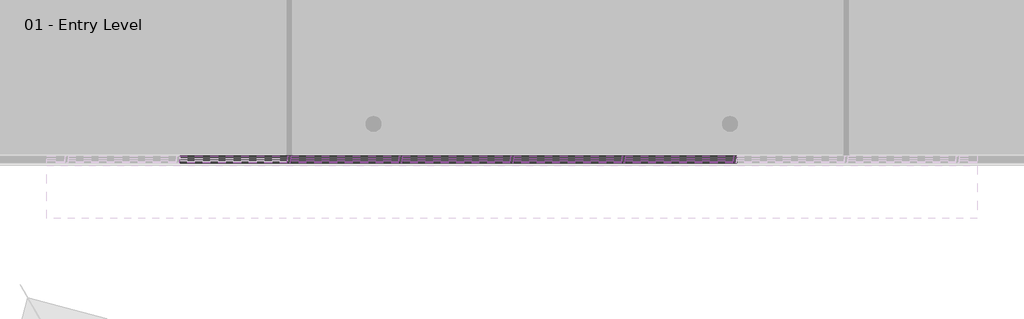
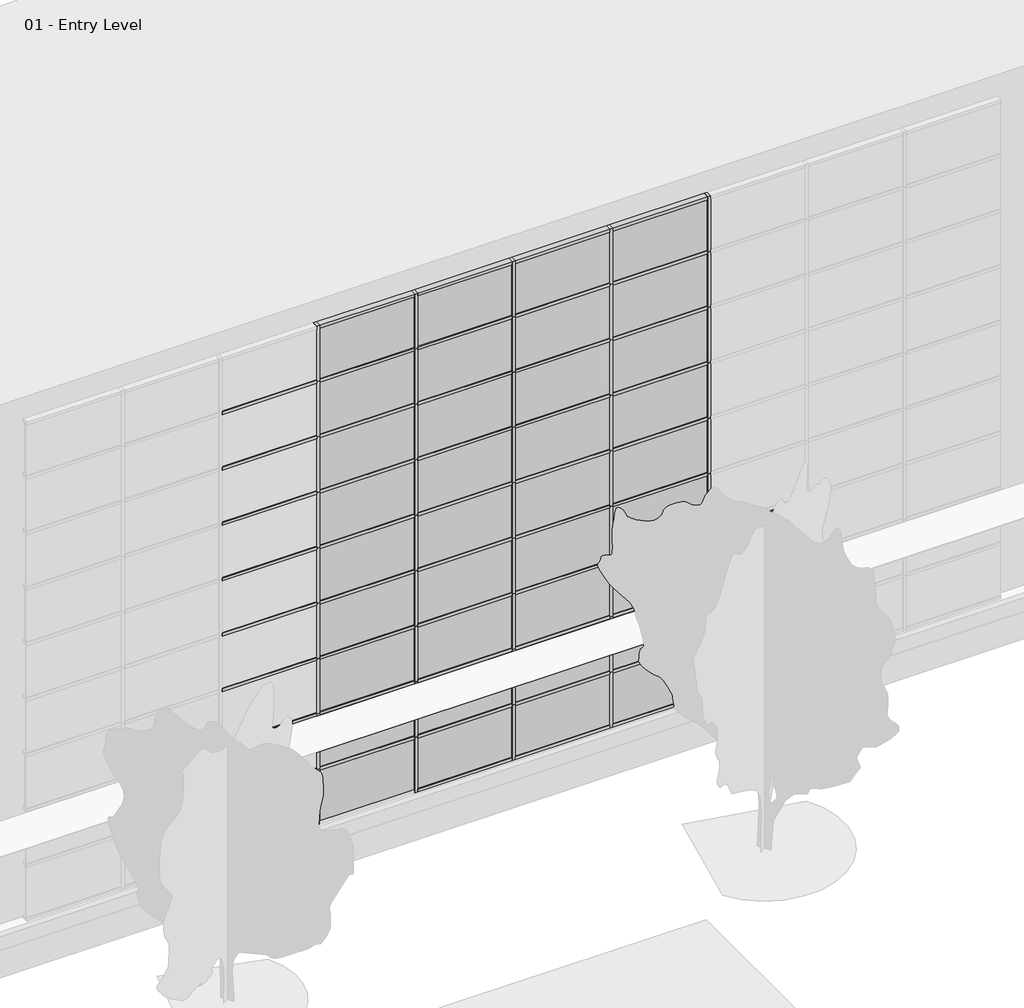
# One storey, part 4 of 35: 93 members, 39 plates.
"""IFC4 building model written with IfcOpenShell, lengths in millimetres."""

from ifc_helpers import new_model, si_unit, origin, place, context, project, spatial, transform, mapped, element, save
from components import member_2b49869a, member_391b434c, member_9e90ae50, system_panel_glazed_1b9d6098, system_panel_glazed_70da479d, system_panel_solid_b376696c, system_panel_solid_77e8b053

model = new_model("IFC4")

# Units and contexts
model_context = context("Model", 3, world=origin())
ifc_project = project(units=[si_unit("LENGTHUNIT", "METRE", prefix="MILLI")], contexts=[model_context])

# Site, building, storey
site = spatial("IfcSite", under=ifc_project)
building = spatial("IfcBuilding", under=site)
storey = spatial("IfcBuildingStorey", under=building, Name="01 - Entry Level", Elevation=0.0)

# Members
placement = place(None, origin())
member_shape = member_2b49869a(model_context)
element("IfcMember", 1, ObjectType="Rectangular Mullion : 2.5\" x 5\" rectangular", at=placement, inside=storey, context=model_context, shape_type="MappedRepresentation", body=[
    mapped(member_shape, transform((40755.2207476, -47.7, 9753.6), x_axis=(1.0, 0.0, 0.0), y_axis=(0.0, -1.0, 0.0), z_axis=(0.0, 0.0, -1.0))),
])
element("IfcMember", 2, ObjectType="Rectangular Mullion : 2.5\" x 5\" rectangular", at=placement, inside=storey, context=model_context, shape_type="MappedRepresentation", body=[
    mapped(member_shape, transform((42787.2207476, -47.7, 9753.6), x_axis=(1.0, 0.0, 0.0), y_axis=(0.0, -1.0, 0.0), z_axis=(0.0, 0.0, -1.0))),
])
element("IfcMember", 3, ObjectType="Rectangular Mullion : 2.5\" x 5\" rectangular", at=placement, inside=storey, context=model_context, shape_type="MappedRepresentation", body=[
    mapped(member_shape, transform((44819.2207476, -47.7, 9753.6), x_axis=(1.0, 0.0, 0.0), y_axis=(0.0, -1.0, 0.0), z_axis=(0.0, 0.0, -1.0))),
])
element("IfcMember", 4, ObjectType="Rectangular Mullion : 2.5\" x 5\" rectangular", at=placement, inside=storey, context=model_context, shape_type="MappedRepresentation", body=[
    mapped(member_shape, transform((46851.2207476, -47.7, 9753.6), x_axis=(1.0, 0.0, 0.0), y_axis=(0.0, -1.0, 0.0), z_axis=(0.0, 0.0, -1.0))),
])
element("IfcMember", 5, ObjectType="Rectangular Mullion : 2.5\" x 5\" rectangular", at=placement, inside=storey, context=model_context, shape_type="MappedRepresentation", body=[
    mapped(member_shape, transform((48883.2207476, -47.7, 9753.6), x_axis=(1.0, 0.0, 0.0), y_axis=(0.0, -1.0, 0.0), z_axis=(0.0, 0.0, -1.0))),
])
member_2_shape = member_391b434c(model_context)
element("IfcMember", 6, ObjectType="Rectangular Mullion : 2.5\" x 5\" rectangular", at=placement, inside=storey, context=model_context, shape_type="MappedRepresentation", body=[
    mapped(member_2_shape, transform((42755.4707476, -47.7, 10972.8), x_axis=(0.0, 0.0, 1.0), y_axis=(0.0, -1.0, 0.0), z_axis=(1.0, 0.0, 0.0))),
])
element("IfcMember", 7, ObjectType="Rectangular Mullion : 2.5\" x 5\" rectangular", at=placement, inside=storey, context=model_context, shape_type="MappedRepresentation", body=[
    mapped(member_2_shape, transform((44787.4707476, -47.7, 10972.8), x_axis=(0.0, 0.0, 1.0), y_axis=(0.0, -1.0, 0.0), z_axis=(1.0, 0.0, 0.0))),
])
element("IfcMember", 8, ObjectType="Rectangular Mullion : 2.5\" x 5\" rectangular", at=placement, inside=storey, context=model_context, shape_type="MappedRepresentation", body=[
    mapped(member_2_shape, transform((46819.4707476, -47.7, 10972.8), x_axis=(0.0, 0.0, 1.0), y_axis=(0.0, -1.0, 0.0), z_axis=(1.0, 0.0, 0.0))),
])
element("IfcMember", 9, ObjectType="Rectangular Mullion : 2.5\" x 5\" rectangular", at=placement, inside=storey, context=model_context, shape_type="MappedRepresentation", body=[
    mapped(member_2_shape, transform((48851.4707476, -47.7, 10972.8), x_axis=(0.0, 0.0, 1.0), y_axis=(0.0, -1.0, 0.0), z_axis=(1.0, 0.0, 0.0))),
])
element("IfcMember", 10, ObjectType="Rectangular Mullion : 2.5\" x 5\" rectangular", at=placement, inside=storey, context=model_context, shape_type="MappedRepresentation", body=[
    mapped(member_2_shape, transform((42818.9707476, -47.7, 0.0), x_axis=(0.0, 0.0, -1.0), y_axis=(0.0, -1.0, 0.0), z_axis=(-1.0, 0.0, 0.0))),
])
element("IfcMember", 11, ObjectType="Rectangular Mullion : 2.5\" x 5\" rectangular", at=placement, inside=storey, context=model_context, shape_type="MappedRepresentation", body=[
    mapped(member_2_shape, transform((44850.9707476, -47.7, 0.0), x_axis=(0.0, 0.0, -1.0), y_axis=(0.0, -1.0, 0.0), z_axis=(-1.0, 0.0, 0.0))),
])
element("IfcMember", 12, ObjectType="Rectangular Mullion : 2.5\" x 5\" rectangular", at=placement, inside=storey, context=model_context, shape_type="MappedRepresentation", body=[
    mapped(member_2_shape, transform((46882.9707476, -47.7, 0.0), x_axis=(0.0, 0.0, -1.0), y_axis=(0.0, -1.0, 0.0), z_axis=(-1.0, 0.0, 0.0))),
])
element("IfcMember", 13, ObjectType="Rectangular Mullion : 2.5\" x 5\" rectangular", at=placement, inside=storey, context=model_context, shape_type="MappedRepresentation", body=[
    mapped(member_2_shape, transform((48914.9707476, -47.7, 0.0), x_axis=(0.0, 0.0, -1.0), y_axis=(0.0, -1.0, 0.0), z_axis=(-1.0, 0.0, 0.0))),
])
member_3_shape = member_9e90ae50(model_context)
element("IfcMember", 14, ObjectType="Rectangular Mullion : 2.5\" x 5\" rectangular", at=placement, inside=storey, context=model_context, shape_type="MappedRepresentation", body=[
    mapped(member_3_shape, transform((40723.4707476, -47.7, 1219.2), x_axis=(0.0, 0.0, 1.0), y_axis=(0.0, -1.0, 0.0), z_axis=(1.0, 0.0, 0.0))),
])
element("IfcMember", 15, ObjectType="Rectangular Mullion : 2.5\" x 5\" rectangular", at=placement, inside=storey, context=model_context, shape_type="MappedRepresentation", body=[
    mapped(member_3_shape, transform((42755.4707476, -47.7, 1219.2), x_axis=(0.0, 0.0, 1.0), y_axis=(0.0, -1.0, 0.0), z_axis=(1.0, 0.0, 0.0))),
])
element("IfcMember", 16, ObjectType="Rectangular Mullion : 2.5\" x 5\" rectangular", at=placement, inside=storey, context=model_context, shape_type="MappedRepresentation", body=[
    mapped(member_3_shape, transform((44787.4707476, -47.7, 1219.2), x_axis=(0.0, 0.0, 1.0), y_axis=(0.0, -1.0, 0.0), z_axis=(1.0, 0.0, 0.0))),
])
element("IfcMember", 17, ObjectType="Rectangular Mullion : 2.5\" x 5\" rectangular", at=placement, inside=storey, context=model_context, shape_type="MappedRepresentation", body=[
    mapped(member_3_shape, transform((46819.4707476, -47.7, 1219.2), x_axis=(0.0, 0.0, 1.0), y_axis=(0.0, -1.0, 0.0), z_axis=(1.0, 0.0, 0.0))),
])
element("IfcMember", 18, ObjectType="Rectangular Mullion : 2.5\" x 5\" rectangular", at=placement, inside=storey, context=model_context, shape_type="MappedRepresentation", body=[
    mapped(member_3_shape, transform((48851.4707476, -47.7, 1219.2), x_axis=(0.0, 0.0, 1.0), y_axis=(0.0, -1.0, 0.0), z_axis=(1.0, 0.0, 0.0))),
])
element("IfcMember", 19, ObjectType="Rectangular Mullion : 2.5\" x 5\" rectangular", at=placement, inside=storey, context=model_context, shape_type="MappedRepresentation", body=[
    mapped(member_3_shape, transform((40723.4707476, -47.7, 2438.4), x_axis=(0.0, 0.0, 1.0), y_axis=(0.0, -1.0, 0.0), z_axis=(1.0, 0.0, 0.0))),
])
element("IfcMember", 20, ObjectType="Rectangular Mullion : 2.5\" x 5\" rectangular", at=placement, inside=storey, context=model_context, shape_type="MappedRepresentation", body=[
    mapped(member_3_shape, transform((42755.4707476, -47.7, 2438.4), x_axis=(0.0, 0.0, 1.0), y_axis=(0.0, -1.0, 0.0), z_axis=(1.0, 0.0, 0.0))),
])
element("IfcMember", 21, ObjectType="Rectangular Mullion : 2.5\" x 5\" rectangular", at=placement, inside=storey, context=model_context, shape_type="MappedRepresentation", body=[
    mapped(member_3_shape, transform((44787.4707476, -47.7, 2438.4), x_axis=(0.0, 0.0, 1.0), y_axis=(0.0, -1.0, 0.0), z_axis=(1.0, 0.0, 0.0))),
])
element("IfcMember", 22, ObjectType="Rectangular Mullion : 2.5\" x 5\" rectangular", at=placement, inside=storey, context=model_context, shape_type="MappedRepresentation", body=[
    mapped(member_3_shape, transform((46819.4707476, -47.7, 2438.4), x_axis=(0.0, 0.0, 1.0), y_axis=(0.0, -1.0, 0.0), z_axis=(1.0, 0.0, 0.0))),
])
element("IfcMember", 23, ObjectType="Rectangular Mullion : 2.5\" x 5\" rectangular", at=placement, inside=storey, context=model_context, shape_type="MappedRepresentation", body=[
    mapped(member_3_shape, transform((48851.4707476, -47.7, 2438.4), x_axis=(0.0, 0.0, 1.0), y_axis=(0.0, -1.0, 0.0), z_axis=(1.0, 0.0, 0.0))),
])
element("IfcMember", 24, ObjectType="Rectangular Mullion : 2.5\" x 5\" rectangular", at=placement, inside=storey, context=model_context, shape_type="MappedRepresentation", body=[
    mapped(member_3_shape, transform((40723.4707476, -47.7, 3657.6), x_axis=(0.0, 0.0, 1.0), y_axis=(0.0, -1.0, 0.0), z_axis=(1.0, 0.0, 0.0))),
])
element("IfcMember", 25, ObjectType="Rectangular Mullion : 2.5\" x 5\" rectangular", at=placement, inside=storey, context=model_context, shape_type="MappedRepresentation", body=[
    mapped(member_3_shape, transform((42755.4707476, -47.7, 3657.6), x_axis=(0.0, 0.0, 1.0), y_axis=(0.0, -1.0, 0.0), z_axis=(1.0, 0.0, 0.0))),
])
element("IfcMember", 26, ObjectType="Rectangular Mullion : 2.5\" x 5\" rectangular", at=placement, inside=storey, context=model_context, shape_type="MappedRepresentation", body=[
    mapped(member_3_shape, transform((44787.4707476, -47.7, 3657.6), x_axis=(0.0, 0.0, 1.0), y_axis=(0.0, -1.0, 0.0), z_axis=(1.0, 0.0, 0.0))),
])
element("IfcMember", 27, ObjectType="Rectangular Mullion : 2.5\" x 5\" rectangular", at=placement, inside=storey, context=model_context, shape_type="MappedRepresentation", body=[
    mapped(member_3_shape, transform((46819.4707476, -47.7, 3657.6), x_axis=(0.0, 0.0, 1.0), y_axis=(0.0, -1.0, 0.0), z_axis=(1.0, 0.0, 0.0))),
])
element("IfcMember", 28, ObjectType="Rectangular Mullion : 2.5\" x 5\" rectangular", at=placement, inside=storey, context=model_context, shape_type="MappedRepresentation", body=[
    mapped(member_3_shape, transform((48851.4707476, -47.7, 3657.6), x_axis=(0.0, 0.0, 1.0), y_axis=(0.0, -1.0, 0.0), z_axis=(1.0, 0.0, 0.0))),
])
element("IfcMember", 29, ObjectType="Rectangular Mullion : 2.5\" x 5\" rectangular", at=placement, inside=storey, context=model_context, shape_type="MappedRepresentation", body=[
    mapped(member_3_shape, transform((40723.4707476, -47.7, 4876.8), x_axis=(0.0, 0.0, 1.0), y_axis=(0.0, -1.0, 0.0), z_axis=(1.0, 0.0, 0.0))),
])
element("IfcMember", 30, ObjectType="Rectangular Mullion : 2.5\" x 5\" rectangular", at=placement, inside=storey, context=model_context, shape_type="MappedRepresentation", body=[
    mapped(member_3_shape, transform((42755.4707476, -47.7, 4876.8), x_axis=(0.0, 0.0, 1.0), y_axis=(0.0, -1.0, 0.0), z_axis=(1.0, 0.0, 0.0))),
])
element("IfcMember", 31, ObjectType="Rectangular Mullion : 2.5\" x 5\" rectangular", at=placement, inside=storey, context=model_context, shape_type="MappedRepresentation", body=[
    mapped(member_3_shape, transform((44787.4707476, -47.7, 4876.8), x_axis=(0.0, 0.0, 1.0), y_axis=(0.0, -1.0, 0.0), z_axis=(1.0, 0.0, 0.0))),
])
element("IfcMember", 32, ObjectType="Rectangular Mullion : 2.5\" x 5\" rectangular", at=placement, inside=storey, context=model_context, shape_type="MappedRepresentation", body=[
    mapped(member_3_shape, transform((46819.4707476, -47.7, 4876.8), x_axis=(0.0, 0.0, 1.0), y_axis=(0.0, -1.0, 0.0), z_axis=(1.0, 0.0, 0.0))),
])
element("IfcMember", 33, ObjectType="Rectangular Mullion : 2.5\" x 5\" rectangular", at=placement, inside=storey, context=model_context, shape_type="MappedRepresentation", body=[
    mapped(member_3_shape, transform((48851.4707476, -47.7, 4876.8), x_axis=(0.0, 0.0, 1.0), y_axis=(0.0, -1.0, 0.0), z_axis=(1.0, 0.0, 0.0))),
])
element("IfcMember", 34, ObjectType="Rectangular Mullion : 2.5\" x 5\" rectangular", at=placement, inside=storey, context=model_context, shape_type="MappedRepresentation", body=[
    mapped(member_3_shape, transform((40723.4707476, -47.7, 6096.0), x_axis=(0.0, 0.0, 1.0), y_axis=(0.0, -1.0, 0.0), z_axis=(1.0, 0.0, 0.0))),
])
element("IfcMember", 35, ObjectType="Rectangular Mullion : 2.5\" x 5\" rectangular", at=placement, inside=storey, context=model_context, shape_type="MappedRepresentation", body=[
    mapped(member_3_shape, transform((42755.4707476, -47.7, 6096.0), x_axis=(0.0, 0.0, 1.0), y_axis=(0.0, -1.0, 0.0), z_axis=(1.0, 0.0, 0.0))),
])
element("IfcMember", 36, ObjectType="Rectangular Mullion : 2.5\" x 5\" rectangular", at=placement, inside=storey, context=model_context, shape_type="MappedRepresentation", body=[
    mapped(member_3_shape, transform((44787.4707476, -47.7, 6096.0), x_axis=(0.0, 0.0, 1.0), y_axis=(0.0, -1.0, 0.0), z_axis=(1.0, 0.0, 0.0))),
])
element("IfcMember", 37, ObjectType="Rectangular Mullion : 2.5\" x 5\" rectangular", at=placement, inside=storey, context=model_context, shape_type="MappedRepresentation", body=[
    mapped(member_3_shape, transform((46819.4707476, -47.7, 6096.0), x_axis=(0.0, 0.0, 1.0), y_axis=(0.0, -1.0, 0.0), z_axis=(1.0, 0.0, 0.0))),
])
element("IfcMember", 38, ObjectType="Rectangular Mullion : 2.5\" x 5\" rectangular", at=placement, inside=storey, context=model_context, shape_type="MappedRepresentation", body=[
    mapped(member_3_shape, transform((48851.4707476, -47.7, 6096.0), x_axis=(0.0, 0.0, 1.0), y_axis=(0.0, -1.0, 0.0), z_axis=(1.0, 0.0, 0.0))),
])
element("IfcMember", 39, ObjectType="Rectangular Mullion : 2.5\" x 5\" rectangular", at=placement, inside=storey, context=model_context, shape_type="MappedRepresentation", body=[
    mapped(member_3_shape, transform((40723.4707476, -47.7, 7315.2), x_axis=(0.0, 0.0, 1.0), y_axis=(0.0, -1.0, 0.0), z_axis=(1.0, 0.0, 0.0))),
])
element("IfcMember", 40, ObjectType="Rectangular Mullion : 2.5\" x 5\" rectangular", at=placement, inside=storey, context=model_context, shape_type="MappedRepresentation", body=[
    mapped(member_3_shape, transform((42755.4707476, -47.7, 7315.2), x_axis=(0.0, 0.0, 1.0), y_axis=(0.0, -1.0, 0.0), z_axis=(1.0, 0.0, 0.0))),
])
element("IfcMember", 41, ObjectType="Rectangular Mullion : 2.5\" x 5\" rectangular", at=placement, inside=storey, context=model_context, shape_type="MappedRepresentation", body=[
    mapped(member_3_shape, transform((44787.4707476, -47.7, 7315.2), x_axis=(0.0, 0.0, 1.0), y_axis=(0.0, -1.0, 0.0), z_axis=(1.0, 0.0, 0.0))),
])
element("IfcMember", 42, ObjectType="Rectangular Mullion : 2.5\" x 5\" rectangular", at=placement, inside=storey, context=model_context, shape_type="MappedRepresentation", body=[
    mapped(member_3_shape, transform((46819.4707476, -47.7, 7315.2), x_axis=(0.0, 0.0, 1.0), y_axis=(0.0, -1.0, 0.0), z_axis=(1.0, 0.0, 0.0))),
])
element("IfcMember", 43, ObjectType="Rectangular Mullion : 2.5\" x 5\" rectangular", at=placement, inside=storey, context=model_context, shape_type="MappedRepresentation", body=[
    mapped(member_3_shape, transform((48851.4707476, -47.7, 7315.2), x_axis=(0.0, 0.0, 1.0), y_axis=(0.0, -1.0, 0.0), z_axis=(1.0, 0.0, 0.0))),
])
element("IfcMember", 44, ObjectType="Rectangular Mullion : 2.5\" x 5\" rectangular", at=placement, inside=storey, context=model_context, shape_type="MappedRepresentation", body=[
    mapped(member_3_shape, transform((40723.4707476, -47.7, 8534.4), x_axis=(0.0, 0.0, 1.0), y_axis=(0.0, -1.0, 0.0), z_axis=(1.0, 0.0, 0.0))),
])
element("IfcMember", 45, ObjectType="Rectangular Mullion : 2.5\" x 5\" rectangular", at=placement, inside=storey, context=model_context, shape_type="MappedRepresentation", body=[
    mapped(member_3_shape, transform((42755.4707476, -47.7, 8534.4), x_axis=(0.0, 0.0, 1.0), y_axis=(0.0, -1.0, 0.0), z_axis=(1.0, 0.0, 0.0))),
])
element("IfcMember", 46, ObjectType="Rectangular Mullion : 2.5\" x 5\" rectangular", at=placement, inside=storey, context=model_context, shape_type="MappedRepresentation", body=[
    mapped(member_3_shape, transform((44787.4707476, -47.7, 8534.4), x_axis=(0.0, 0.0, 1.0), y_axis=(0.0, -1.0, 0.0), z_axis=(1.0, 0.0, 0.0))),
])
element("IfcMember", 47, ObjectType="Rectangular Mullion : 2.5\" x 5\" rectangular", at=placement, inside=storey, context=model_context, shape_type="MappedRepresentation", body=[
    mapped(member_3_shape, transform((46819.4707476, -47.7, 8534.4), x_axis=(0.0, 0.0, 1.0), y_axis=(0.0, -1.0, 0.0), z_axis=(1.0, 0.0, 0.0))),
])
element("IfcMember", 48, ObjectType="Rectangular Mullion : 2.5\" x 5\" rectangular", at=placement, inside=storey, context=model_context, shape_type="MappedRepresentation", body=[
    mapped(member_3_shape, transform((48851.4707476, -47.7, 8534.4), x_axis=(0.0, 0.0, 1.0), y_axis=(0.0, -1.0, 0.0), z_axis=(1.0, 0.0, 0.0))),
])
element("IfcMember", 49, ObjectType="Rectangular Mullion : 2.5\" x 5\" rectangular", at=placement, inside=storey, context=model_context, shape_type="MappedRepresentation", body=[
    mapped(member_3_shape, transform((40723.4707476, -47.7, 9753.6), x_axis=(0.0, 0.0, 1.0), y_axis=(0.0, -1.0, 0.0), z_axis=(1.0, 0.0, 0.0))),
])
element("IfcMember", 50, ObjectType="Rectangular Mullion : 2.5\" x 5\" rectangular", at=placement, inside=storey, context=model_context, shape_type="MappedRepresentation", body=[
    mapped(member_3_shape, transform((42755.4707476, -47.7, 9753.6), x_axis=(0.0, 0.0, 1.0), y_axis=(0.0, -1.0, 0.0), z_axis=(1.0, 0.0, 0.0))),
])
element("IfcMember", 51, ObjectType="Rectangular Mullion : 2.5\" x 5\" rectangular", at=placement, inside=storey, context=model_context, shape_type="MappedRepresentation", body=[
    mapped(member_3_shape, transform((44787.4707476, -47.7, 9753.6), x_axis=(0.0, 0.0, 1.0), y_axis=(0.0, -1.0, 0.0), z_axis=(1.0, 0.0, 0.0))),
])
element("IfcMember", 52, ObjectType="Rectangular Mullion : 2.5\" x 5\" rectangular", at=placement, inside=storey, context=model_context, shape_type="MappedRepresentation", body=[
    mapped(member_3_shape, transform((46819.4707476, -47.7, 9753.6), x_axis=(0.0, 0.0, 1.0), y_axis=(0.0, -1.0, 0.0), z_axis=(1.0, 0.0, 0.0))),
])
element("IfcMember", 53, ObjectType="Rectangular Mullion : 2.5\" x 5\" rectangular", at=placement, inside=storey, context=model_context, shape_type="MappedRepresentation", body=[
    mapped(member_3_shape, transform((48851.4707476, -47.7, 9753.6), x_axis=(0.0, 0.0, 1.0), y_axis=(0.0, -1.0, 0.0), z_axis=(1.0, 0.0, 0.0))),
])
element("IfcMember", 54, ObjectType="Rectangular Mullion : 2.5\" x 5\" rectangular", at=placement, inside=storey, context=model_context, shape_type="MappedRepresentation", body=[
    mapped(member_shape, transform((40755.2207476, -47.7, 0.0), x_axis=(1.0, 0.0, 0.0), y_axis=(0.0, -1.0, 0.0), z_axis=(0.0, 0.0, -1.0))),
])
element("IfcMember", 55, ObjectType="Rectangular Mullion : 2.5\" x 5\" rectangular", at=placement, inside=storey, context=model_context, shape_type="MappedRepresentation", body=[
    mapped(member_shape, transform((42787.2207476, -47.7, 0.0), x_axis=(1.0, 0.0, 0.0), y_axis=(0.0, -1.0, 0.0), z_axis=(0.0, 0.0, -1.0))),
])
element("IfcMember", 56, ObjectType="Rectangular Mullion : 2.5\" x 5\" rectangular", at=placement, inside=storey, context=model_context, shape_type="MappedRepresentation", body=[
    mapped(member_shape, transform((44819.2207476, -47.7, 0.0), x_axis=(1.0, 0.0, 0.0), y_axis=(0.0, -1.0, 0.0), z_axis=(0.0, 0.0, -1.0))),
])
element("IfcMember", 57, ObjectType="Rectangular Mullion : 2.5\" x 5\" rectangular", at=placement, inside=storey, context=model_context, shape_type="MappedRepresentation", body=[
    mapped(member_shape, transform((46851.2207476, -47.7, 0.0), x_axis=(1.0, 0.0, 0.0), y_axis=(0.0, -1.0, 0.0), z_axis=(0.0, 0.0, -1.0))),
])
element("IfcMember", 58, ObjectType="Rectangular Mullion : 2.5\" x 5\" rectangular", at=placement, inside=storey, context=model_context, shape_type="MappedRepresentation", body=[
    mapped(member_shape, transform((48883.2207476, -47.7, 0.0), x_axis=(1.0, 0.0, 0.0), y_axis=(0.0, -1.0, 0.0), z_axis=(0.0, 0.0, -1.0))),
])
element("IfcMember", 59, ObjectType="Rectangular Mullion : 2.5\" x 5\" rectangular", at=placement, inside=storey, context=model_context, shape_type="MappedRepresentation", body=[
    mapped(member_shape, transform((40755.2207476, -47.7, 1219.2), x_axis=(1.0, 0.0, 0.0), y_axis=(0.0, -1.0, 0.0), z_axis=(0.0, 0.0, -1.0))),
])
element("IfcMember", 60, ObjectType="Rectangular Mullion : 2.5\" x 5\" rectangular", at=placement, inside=storey, context=model_context, shape_type="MappedRepresentation", body=[
    mapped(member_shape, transform((42787.2207476, -47.7, 1219.2), x_axis=(1.0, 0.0, 0.0), y_axis=(0.0, -1.0, 0.0), z_axis=(0.0, 0.0, -1.0))),
])
element("IfcMember", 61, ObjectType="Rectangular Mullion : 2.5\" x 5\" rectangular", at=placement, inside=storey, context=model_context, shape_type="MappedRepresentation", body=[
    mapped(member_shape, transform((44819.2207476, -47.7, 1219.2), x_axis=(1.0, 0.0, 0.0), y_axis=(0.0, -1.0, 0.0), z_axis=(0.0, 0.0, -1.0))),
])
element("IfcMember", 62, ObjectType="Rectangular Mullion : 2.5\" x 5\" rectangular", at=placement, inside=storey, context=model_context, shape_type="MappedRepresentation", body=[
    mapped(member_shape, transform((46851.2207476, -47.7, 1219.2), x_axis=(1.0, 0.0, 0.0), y_axis=(0.0, -1.0, 0.0), z_axis=(0.0, 0.0, -1.0))),
])
element("IfcMember", 63, ObjectType="Rectangular Mullion : 2.5\" x 5\" rectangular", at=placement, inside=storey, context=model_context, shape_type="MappedRepresentation", body=[
    mapped(member_shape, transform((48883.2207476, -47.7, 1219.2), x_axis=(1.0, 0.0, 0.0), y_axis=(0.0, -1.0, 0.0), z_axis=(0.0, 0.0, -1.0))),
])
element("IfcMember", 64, ObjectType="Rectangular Mullion : 2.5\" x 5\" rectangular", at=placement, inside=storey, context=model_context, shape_type="MappedRepresentation", body=[
    mapped(member_shape, transform((40755.2207476, -47.7, 2438.4), x_axis=(1.0, 0.0, 0.0), y_axis=(0.0, -1.0, 0.0), z_axis=(0.0, 0.0, -1.0))),
])
element("IfcMember", 65, ObjectType="Rectangular Mullion : 2.5\" x 5\" rectangular", at=placement, inside=storey, context=model_context, shape_type="MappedRepresentation", body=[
    mapped(member_shape, transform((42787.2207476, -47.7, 2438.4), x_axis=(1.0, 0.0, 0.0), y_axis=(0.0, -1.0, 0.0), z_axis=(0.0, 0.0, -1.0))),
])
element("IfcMember", 66, ObjectType="Rectangular Mullion : 2.5\" x 5\" rectangular", at=placement, inside=storey, context=model_context, shape_type="MappedRepresentation", body=[
    mapped(member_shape, transform((44819.2207476, -47.7, 2438.4), x_axis=(1.0, 0.0, 0.0), y_axis=(0.0, -1.0, 0.0), z_axis=(0.0, 0.0, -1.0))),
])
element("IfcMember", 67, ObjectType="Rectangular Mullion : 2.5\" x 5\" rectangular", at=placement, inside=storey, context=model_context, shape_type="MappedRepresentation", body=[
    mapped(member_shape, transform((46851.2207476, -47.7, 2438.4), x_axis=(1.0, 0.0, 0.0), y_axis=(0.0, -1.0, 0.0), z_axis=(0.0, 0.0, -1.0))),
])
element("IfcMember", 68, ObjectType="Rectangular Mullion : 2.5\" x 5\" rectangular", at=placement, inside=storey, context=model_context, shape_type="MappedRepresentation", body=[
    mapped(member_shape, transform((48883.2207476, -47.7, 2438.4), x_axis=(1.0, 0.0, 0.0), y_axis=(0.0, -1.0, 0.0), z_axis=(0.0, 0.0, -1.0))),
])
element("IfcMember", 69, ObjectType="Rectangular Mullion : 2.5\" x 5\" rectangular", at=placement, inside=storey, context=model_context, shape_type="MappedRepresentation", body=[
    mapped(member_shape, transform((40755.2207476, -47.7, 3657.6), x_axis=(1.0, 0.0, 0.0), y_axis=(0.0, -1.0, 0.0), z_axis=(0.0, 0.0, -1.0))),
])
element("IfcMember", 70, ObjectType="Rectangular Mullion : 2.5\" x 5\" rectangular", at=placement, inside=storey, context=model_context, shape_type="MappedRepresentation", body=[
    mapped(member_shape, transform((42787.2207476, -47.7, 3657.6), x_axis=(1.0, 0.0, 0.0), y_axis=(0.0, -1.0, 0.0), z_axis=(0.0, 0.0, -1.0))),
])
element("IfcMember", 71, ObjectType="Rectangular Mullion : 2.5\" x 5\" rectangular", at=placement, inside=storey, context=model_context, shape_type="MappedRepresentation", body=[
    mapped(member_shape, transform((44819.2207476, -47.7, 3657.6), x_axis=(1.0, 0.0, 0.0), y_axis=(0.0, -1.0, 0.0), z_axis=(0.0, 0.0, -1.0))),
])
element("IfcMember", 72, ObjectType="Rectangular Mullion : 2.5\" x 5\" rectangular", at=placement, inside=storey, context=model_context, shape_type="MappedRepresentation", body=[
    mapped(member_shape, transform((46851.2207476, -47.7, 3657.6), x_axis=(1.0, 0.0, 0.0), y_axis=(0.0, -1.0, 0.0), z_axis=(0.0, 0.0, -1.0))),
])
element("IfcMember", 73, ObjectType="Rectangular Mullion : 2.5\" x 5\" rectangular", at=placement, inside=storey, context=model_context, shape_type="MappedRepresentation", body=[
    mapped(member_shape, transform((48883.2207476, -47.7, 3657.6), x_axis=(1.0, 0.0, 0.0), y_axis=(0.0, -1.0, 0.0), z_axis=(0.0, 0.0, -1.0))),
])
element("IfcMember", 74, ObjectType="Rectangular Mullion : 2.5\" x 5\" rectangular", at=placement, inside=storey, context=model_context, shape_type="MappedRepresentation", body=[
    mapped(member_shape, transform((40755.2207476, -47.7, 4876.8), x_axis=(1.0, 0.0, 0.0), y_axis=(0.0, -1.0, 0.0), z_axis=(0.0, 0.0, -1.0))),
])
element("IfcMember", 75, ObjectType="Rectangular Mullion : 2.5\" x 5\" rectangular", at=placement, inside=storey, context=model_context, shape_type="MappedRepresentation", body=[
    mapped(member_shape, transform((42787.2207476, -47.7, 4876.8), x_axis=(1.0, 0.0, 0.0), y_axis=(0.0, -1.0, 0.0), z_axis=(0.0, 0.0, -1.0))),
])
element("IfcMember", 76, ObjectType="Rectangular Mullion : 2.5\" x 5\" rectangular", at=placement, inside=storey, context=model_context, shape_type="MappedRepresentation", body=[
    mapped(member_shape, transform((44819.2207476, -47.7, 4876.8), x_axis=(1.0, 0.0, 0.0), y_axis=(0.0, -1.0, 0.0), z_axis=(0.0, 0.0, -1.0))),
])
element("IfcMember", 77, ObjectType="Rectangular Mullion : 2.5\" x 5\" rectangular", at=placement, inside=storey, context=model_context, shape_type="MappedRepresentation", body=[
    mapped(member_shape, transform((46851.2207476, -47.7, 4876.8), x_axis=(1.0, 0.0, 0.0), y_axis=(0.0, -1.0, 0.0), z_axis=(0.0, 0.0, -1.0))),
])
element("IfcMember", 78, ObjectType="Rectangular Mullion : 2.5\" x 5\" rectangular", at=placement, inside=storey, context=model_context, shape_type="MappedRepresentation", body=[
    mapped(member_shape, transform((48883.2207476, -47.7, 4876.8), x_axis=(1.0, 0.0, 0.0), y_axis=(0.0, -1.0, 0.0), z_axis=(0.0, 0.0, -1.0))),
])
element("IfcMember", 79, ObjectType="Rectangular Mullion : 2.5\" x 5\" rectangular", at=placement, inside=storey, context=model_context, shape_type="MappedRepresentation", body=[
    mapped(member_shape, transform((40755.2207476, -47.7, 6096.0), x_axis=(1.0, 0.0, 0.0), y_axis=(0.0, -1.0, 0.0), z_axis=(0.0, 0.0, -1.0))),
])
element("IfcMember", 80, ObjectType="Rectangular Mullion : 2.5\" x 5\" rectangular", at=placement, inside=storey, context=model_context, shape_type="MappedRepresentation", body=[
    mapped(member_shape, transform((42787.2207476, -47.7, 6096.0), x_axis=(1.0, 0.0, 0.0), y_axis=(0.0, -1.0, 0.0), z_axis=(0.0, 0.0, -1.0))),
])
element("IfcMember", 81, ObjectType="Rectangular Mullion : 2.5\" x 5\" rectangular", at=placement, inside=storey, context=model_context, shape_type="MappedRepresentation", body=[
    mapped(member_shape, transform((44819.2207476, -47.7, 6096.0), x_axis=(1.0, 0.0, 0.0), y_axis=(0.0, -1.0, 0.0), z_axis=(0.0, 0.0, -1.0))),
])
element("IfcMember", 82, ObjectType="Rectangular Mullion : 2.5\" x 5\" rectangular", at=placement, inside=storey, context=model_context, shape_type="MappedRepresentation", body=[
    mapped(member_shape, transform((46851.2207476, -47.7, 6096.0), x_axis=(1.0, 0.0, 0.0), y_axis=(0.0, -1.0, 0.0), z_axis=(0.0, 0.0, -1.0))),
])
element("IfcMember", 83, ObjectType="Rectangular Mullion : 2.5\" x 5\" rectangular", at=placement, inside=storey, context=model_context, shape_type="MappedRepresentation", body=[
    mapped(member_shape, transform((48883.2207476, -47.7, 6096.0), x_axis=(1.0, 0.0, 0.0), y_axis=(0.0, -1.0, 0.0), z_axis=(0.0, 0.0, -1.0))),
])
element("IfcMember", 84, ObjectType="Rectangular Mullion : 2.5\" x 5\" rectangular", at=placement, inside=storey, context=model_context, shape_type="MappedRepresentation", body=[
    mapped(member_shape, transform((40755.2207476, -47.7, 7315.2), x_axis=(1.0, 0.0, 0.0), y_axis=(0.0, -1.0, 0.0), z_axis=(0.0, 0.0, -1.0))),
])
element("IfcMember", 85, ObjectType="Rectangular Mullion : 2.5\" x 5\" rectangular", at=placement, inside=storey, context=model_context, shape_type="MappedRepresentation", body=[
    mapped(member_shape, transform((42787.2207476, -47.7, 7315.2), x_axis=(1.0, 0.0, 0.0), y_axis=(0.0, -1.0, 0.0), z_axis=(0.0, 0.0, -1.0))),
])
element("IfcMember", 86, ObjectType="Rectangular Mullion : 2.5\" x 5\" rectangular", at=placement, inside=storey, context=model_context, shape_type="MappedRepresentation", body=[
    mapped(member_shape, transform((44819.2207476, -47.7, 7315.2), x_axis=(1.0, 0.0, 0.0), y_axis=(0.0, -1.0, 0.0), z_axis=(0.0, 0.0, -1.0))),
])
element("IfcMember", 87, ObjectType="Rectangular Mullion : 2.5\" x 5\" rectangular", at=placement, inside=storey, context=model_context, shape_type="MappedRepresentation", body=[
    mapped(member_shape, transform((46851.2207476, -47.7, 7315.2), x_axis=(1.0, 0.0, 0.0), y_axis=(0.0, -1.0, 0.0), z_axis=(0.0, 0.0, -1.0))),
])
element("IfcMember", 88, ObjectType="Rectangular Mullion : 2.5\" x 5\" rectangular", at=placement, inside=storey, context=model_context, shape_type="MappedRepresentation", body=[
    mapped(member_shape, transform((48883.2207476, -47.7, 7315.2), x_axis=(1.0, 0.0, 0.0), y_axis=(0.0, -1.0, 0.0), z_axis=(0.0, 0.0, -1.0))),
])
element("IfcMember", 89, ObjectType="Rectangular Mullion : 2.5\" x 5\" rectangular", at=placement, inside=storey, context=model_context, shape_type="MappedRepresentation", body=[
    mapped(member_shape, transform((40755.2207476, -47.7, 8534.4), x_axis=(1.0, 0.0, 0.0), y_axis=(0.0, -1.0, 0.0), z_axis=(0.0, 0.0, -1.0))),
])
element("IfcMember", 90, ObjectType="Rectangular Mullion : 2.5\" x 5\" rectangular", at=placement, inside=storey, context=model_context, shape_type="MappedRepresentation", body=[
    mapped(member_shape, transform((42787.2207476, -47.7, 8534.4), x_axis=(1.0, 0.0, 0.0), y_axis=(0.0, -1.0, 0.0), z_axis=(0.0, 0.0, -1.0))),
])
element("IfcMember", 91, ObjectType="Rectangular Mullion : 2.5\" x 5\" rectangular", at=placement, inside=storey, context=model_context, shape_type="MappedRepresentation", body=[
    mapped(member_shape, transform((44819.2207476, -47.7, 8534.4), x_axis=(1.0, 0.0, 0.0), y_axis=(0.0, -1.0, 0.0), z_axis=(0.0, 0.0, -1.0))),
])
element("IfcMember", 92, ObjectType="Rectangular Mullion : 2.5\" x 5\" rectangular", at=placement, inside=storey, context=model_context, shape_type="MappedRepresentation", body=[
    mapped(member_shape, transform((46851.2207476, -47.7, 8534.4), x_axis=(1.0, 0.0, 0.0), y_axis=(0.0, -1.0, 0.0), z_axis=(0.0, 0.0, -1.0))),
])
element("IfcMember", 93, ObjectType="Rectangular Mullion : 2.5\" x 5\" rectangular", at=placement, inside=storey, context=model_context, shape_type="MappedRepresentation", body=[
    mapped(member_shape, transform((48883.2207476, -47.7, 8534.4), x_axis=(1.0, 0.0, 0.0), y_axis=(0.0, -1.0, 0.0), z_axis=(0.0, 0.0, -1.0))),
])

# Plates
system_panel_glazed_shape = system_panel_glazed_1b9d6098(model_context)
element("IfcPlate", 94, ObjectType="System Panel : Glazed", at=placement, inside=storey, context=model_context, shape_type="MappedRepresentation", body=[
    mapped(system_panel_glazed_shape, transform((41771.2207476, -47.7, 63.5), x_axis=(1.0, 0.0, 0.0), y_axis=(0.0, 1.0, 0.0), z_axis=(0.0, 0.0, 1.0))),
])
element("IfcPlate", 95, ObjectType="System Panel : Glazed", at=placement, inside=storey, context=model_context, shape_type="MappedRepresentation", body=[
    mapped(system_panel_glazed_shape, transform((43803.2207476, -47.7, 63.5), x_axis=(1.0, 0.0, 0.0), y_axis=(0.0, 1.0, 0.0), z_axis=(0.0, 0.0, 1.0))),
])
element("IfcPlate", 96, ObjectType="System Panel : Glazed", at=placement, inside=storey, context=model_context, shape_type="MappedRepresentation", body=[
    mapped(system_panel_glazed_shape, transform((45835.2207476, -47.7, 63.5), x_axis=(1.0, 0.0, 0.0), y_axis=(0.0, 1.0, 0.0), z_axis=(0.0, 0.0, 1.0))),
])
element("IfcPlate", 97, ObjectType="System Panel : Glazed", at=placement, inside=storey, context=model_context, shape_type="MappedRepresentation", body=[
    mapped(system_panel_glazed_shape, transform((47867.2207476, -47.7, 63.5), x_axis=(1.0, 0.0, 0.0), y_axis=(0.0, 1.0, 0.0), z_axis=(0.0, 0.0, 1.0))),
])
element("IfcPlate", 98, ObjectType="System Panel : Glazed", at=placement, inside=storey, context=model_context, shape_type="MappedRepresentation", body=[
    mapped(system_panel_glazed_shape, transform((49899.2207476, -47.7, 63.5), x_axis=(1.0, 0.0, 0.0), y_axis=(0.0, 1.0, 0.0), z_axis=(0.0, 0.0, 1.0))),
])
system_panel_glazed_2_shape = system_panel_glazed_70da479d(model_context)
element("IfcPlate", 99, ObjectType="System Panel : Glazed", at=placement, inside=storey, context=model_context, shape_type="MappedRepresentation", body=[
    mapped(system_panel_glazed_2_shape, transform((41771.2207476, -47.7, 1250.95), x_axis=(1.0, 0.0, 0.0), y_axis=(0.0, 1.0, 0.0), z_axis=(0.0, 0.0, 1.0))),
])
element("IfcPlate", 100, ObjectType="System Panel : Glazed", at=placement, inside=storey, context=model_context, shape_type="MappedRepresentation", body=[
    mapped(system_panel_glazed_2_shape, transform((43803.2207476, -47.7, 1250.95), x_axis=(1.0, 0.0, 0.0), y_axis=(0.0, 1.0, 0.0), z_axis=(0.0, 0.0, 1.0))),
])
element("IfcPlate", 101, ObjectType="System Panel : Glazed", at=placement, inside=storey, context=model_context, shape_type="MappedRepresentation", body=[
    mapped(system_panel_glazed_2_shape, transform((45835.2207476, -47.7, 1250.95), x_axis=(1.0, 0.0, 0.0), y_axis=(0.0, 1.0, 0.0), z_axis=(0.0, 0.0, 1.0))),
])
element("IfcPlate", 102, ObjectType="System Panel : Glazed", at=placement, inside=storey, context=model_context, shape_type="MappedRepresentation", body=[
    mapped(system_panel_glazed_2_shape, transform((47867.2207476, -47.7, 1250.95), x_axis=(1.0, 0.0, 0.0), y_axis=(0.0, 1.0, 0.0), z_axis=(0.0, 0.0, 1.0))),
])
element("IfcPlate", 103, ObjectType="System Panel : Glazed", at=placement, inside=storey, context=model_context, shape_type="MappedRepresentation", body=[
    mapped(system_panel_glazed_2_shape, transform((49899.2207476, -47.7, 1250.95), x_axis=(1.0, 0.0, 0.0), y_axis=(0.0, 1.0, 0.0), z_axis=(0.0, 0.0, 1.0))),
])
element("IfcPlate", 104, ObjectType="System Panel : Glazed", at=placement, inside=storey, context=model_context, shape_type="MappedRepresentation", body=[
    mapped(system_panel_glazed_2_shape, transform((41771.2207476, -47.7, 3689.35), x_axis=(1.0, 0.0, 0.0), y_axis=(0.0, 1.0, 0.0), z_axis=(0.0, 0.0, 1.0))),
])
element("IfcPlate", 105, ObjectType="System Panel : Glazed", at=placement, inside=storey, context=model_context, shape_type="MappedRepresentation", body=[
    mapped(system_panel_glazed_2_shape, transform((43803.2207476, -47.7, 3689.35), x_axis=(1.0, 0.0, 0.0), y_axis=(0.0, 1.0, 0.0), z_axis=(0.0, 0.0, 1.0))),
])
element("IfcPlate", 106, ObjectType="System Panel : Glazed", at=placement, inside=storey, context=model_context, shape_type="MappedRepresentation", body=[
    mapped(system_panel_glazed_2_shape, transform((45835.2207476, -47.7, 3689.35), x_axis=(1.0, 0.0, 0.0), y_axis=(0.0, 1.0, 0.0), z_axis=(0.0, 0.0, 1.0))),
])
element("IfcPlate", 107, ObjectType="System Panel : Glazed", at=placement, inside=storey, context=model_context, shape_type="MappedRepresentation", body=[
    mapped(system_panel_glazed_2_shape, transform((47867.2207476, -47.7, 3689.35), x_axis=(1.0, 0.0, 0.0), y_axis=(0.0, 1.0, 0.0), z_axis=(0.0, 0.0, 1.0))),
])
element("IfcPlate", 108, ObjectType="System Panel : Glazed", at=placement, inside=storey, context=model_context, shape_type="MappedRepresentation", body=[
    mapped(system_panel_glazed_2_shape, transform((41771.2207476, -47.7, 4908.55), x_axis=(1.0, 0.0, 0.0), y_axis=(0.0, 1.0, 0.0), z_axis=(0.0, 0.0, 1.0))),
])
element("IfcPlate", 109, ObjectType="System Panel : Glazed", at=placement, inside=storey, context=model_context, shape_type="MappedRepresentation", body=[
    mapped(system_panel_glazed_2_shape, transform((43803.2207476, -47.7, 4908.55), x_axis=(1.0, 0.0, 0.0), y_axis=(0.0, 1.0, 0.0), z_axis=(0.0, 0.0, 1.0))),
])
element("IfcPlate", 110, ObjectType="System Panel : Glazed", at=placement, inside=storey, context=model_context, shape_type="MappedRepresentation", body=[
    mapped(system_panel_glazed_2_shape, transform((45835.2207476, -47.7, 4908.55), x_axis=(1.0, 0.0, 0.0), y_axis=(0.0, 1.0, 0.0), z_axis=(0.0, 0.0, 1.0))),
])
element("IfcPlate", 111, ObjectType="System Panel : Glazed", at=placement, inside=storey, context=model_context, shape_type="MappedRepresentation", body=[
    mapped(system_panel_glazed_2_shape, transform((47867.2207476, -47.7, 4908.55), x_axis=(1.0, 0.0, 0.0), y_axis=(0.0, 1.0, 0.0), z_axis=(0.0, 0.0, 1.0))),
])
element("IfcPlate", 112, ObjectType="System Panel : Glazed", at=placement, inside=storey, context=model_context, shape_type="MappedRepresentation", body=[
    mapped(system_panel_glazed_2_shape, transform((41771.2207476, -47.7, 7346.95), x_axis=(1.0, 0.0, 0.0), y_axis=(0.0, 1.0, 0.0), z_axis=(0.0, 0.0, 1.0))),
])
element("IfcPlate", 113, ObjectType="System Panel : Glazed", at=placement, inside=storey, context=model_context, shape_type="MappedRepresentation", body=[
    mapped(system_panel_glazed_2_shape, transform((43803.2207476, -47.7, 7346.95), x_axis=(1.0, 0.0, 0.0), y_axis=(0.0, 1.0, 0.0), z_axis=(0.0, 0.0, 1.0))),
])
element("IfcPlate", 114, ObjectType="System Panel : Glazed", at=placement, inside=storey, context=model_context, shape_type="MappedRepresentation", body=[
    mapped(system_panel_glazed_2_shape, transform((45835.2207476, -47.7, 7346.95), x_axis=(1.0, 0.0, 0.0), y_axis=(0.0, 1.0, 0.0), z_axis=(0.0, 0.0, 1.0))),
])
element("IfcPlate", 115, ObjectType="System Panel : Glazed", at=placement, inside=storey, context=model_context, shape_type="MappedRepresentation", body=[
    mapped(system_panel_glazed_2_shape, transform((47867.2207476, -47.7, 7346.95), x_axis=(1.0, 0.0, 0.0), y_axis=(0.0, 1.0, 0.0), z_axis=(0.0, 0.0, 1.0))),
])
element("IfcPlate", 116, ObjectType="System Panel : Glazed", at=placement, inside=storey, context=model_context, shape_type="MappedRepresentation", body=[
    mapped(system_panel_glazed_2_shape, transform((41771.2207476, -47.7, 8566.15), x_axis=(1.0, 0.0, 0.0), y_axis=(0.0, 1.0, 0.0), z_axis=(0.0, 0.0, 1.0))),
])
element("IfcPlate", 117, ObjectType="System Panel : Glazed", at=placement, inside=storey, context=model_context, shape_type="MappedRepresentation", body=[
    mapped(system_panel_glazed_2_shape, transform((43803.2207476, -47.7, 8566.15), x_axis=(1.0, 0.0, 0.0), y_axis=(0.0, 1.0, 0.0), z_axis=(0.0, 0.0, 1.0))),
])
element("IfcPlate", 118, ObjectType="System Panel : Glazed", at=placement, inside=storey, context=model_context, shape_type="MappedRepresentation", body=[
    mapped(system_panel_glazed_2_shape, transform((45835.2207476, -47.7, 8566.15), x_axis=(1.0, 0.0, 0.0), y_axis=(0.0, 1.0, 0.0), z_axis=(0.0, 0.0, 1.0))),
])
element("IfcPlate", 119, ObjectType="System Panel : Glazed", at=placement, inside=storey, context=model_context, shape_type="MappedRepresentation", body=[
    mapped(system_panel_glazed_2_shape, transform((47867.2207476, -47.7, 8566.15), x_axis=(1.0, 0.0, 0.0), y_axis=(0.0, 1.0, 0.0), z_axis=(0.0, 0.0, 1.0))),
])
system_panel_solid_shape = system_panel_solid_b376696c(model_context)
element("IfcPlate", 120, ObjectType="System Panel : Solid", at=placement, inside=storey, context=model_context, shape_type="MappedRepresentation", body=[
    mapped(system_panel_solid_shape, transform((41771.2207476, -47.7, 9785.35), x_axis=(1.0, 0.0, 0.0), y_axis=(0.0, 1.0, 0.0), z_axis=(0.0, 0.0, 1.0))),
])
element("IfcPlate", 121, ObjectType="System Panel : Solid", at=placement, inside=storey, context=model_context, shape_type="MappedRepresentation", body=[
    mapped(system_panel_solid_shape, transform((43803.2207476, -47.7, 9785.35), x_axis=(1.0, 0.0, 0.0), y_axis=(0.0, 1.0, 0.0), z_axis=(0.0, 0.0, 1.0))),
])
element("IfcPlate", 122, ObjectType="System Panel : Solid", at=placement, inside=storey, context=model_context, shape_type="MappedRepresentation", body=[
    mapped(system_panel_solid_shape, transform((45835.2207476, -47.7, 9785.35), x_axis=(1.0, 0.0, 0.0), y_axis=(0.0, 1.0, 0.0), z_axis=(0.0, 0.0, 1.0))),
])
element("IfcPlate", 123, ObjectType="System Panel : Solid", at=placement, inside=storey, context=model_context, shape_type="MappedRepresentation", body=[
    mapped(system_panel_solid_shape, transform((47867.2207476, -47.7, 9785.35), x_axis=(1.0, 0.0, 0.0), y_axis=(0.0, 1.0, 0.0), z_axis=(0.0, 0.0, 1.0))),
])
system_panel_solid_2_shape = system_panel_solid_77e8b053(model_context)
element("IfcPlate", 124, ObjectType="System Panel : Solid", at=placement, inside=storey, context=model_context, shape_type="MappedRepresentation", body=[
    mapped(system_panel_solid_2_shape, transform((41771.2207476, -47.7, 2470.15), x_axis=(1.0, 0.0, 0.0), y_axis=(0.0, 1.0, 0.0), z_axis=(0.0, 0.0, 1.0))),
])
element("IfcPlate", 125, ObjectType="System Panel : Solid", at=placement, inside=storey, context=model_context, shape_type="MappedRepresentation", body=[
    mapped(system_panel_solid_2_shape, transform((43803.2207476, -47.7, 2470.15), x_axis=(1.0, 0.0, 0.0), y_axis=(0.0, 1.0, 0.0), z_axis=(0.0, 0.0, 1.0))),
])
element("IfcPlate", 126, ObjectType="System Panel : Solid", at=placement, inside=storey, context=model_context, shape_type="MappedRepresentation", body=[
    mapped(system_panel_solid_2_shape, transform((45835.2207476, -47.7, 2470.15), x_axis=(1.0, 0.0, 0.0), y_axis=(0.0, 1.0, 0.0), z_axis=(0.0, 0.0, 1.0))),
])
element("IfcPlate", 127, ObjectType="System Panel : Solid", at=placement, inside=storey, context=model_context, shape_type="MappedRepresentation", body=[
    mapped(system_panel_solid_2_shape, transform((47867.2207476, -47.7, 2470.15), x_axis=(1.0, 0.0, 0.0), y_axis=(0.0, 1.0, 0.0), z_axis=(0.0, 0.0, 1.0))),
])
element("IfcPlate", 128, ObjectType="System Panel : Solid", at=placement, inside=storey, context=model_context, shape_type="MappedRepresentation", body=[
    mapped(system_panel_solid_2_shape, transform((49899.2207476, -47.7, 2470.15), x_axis=(1.0, 0.0, 0.0), y_axis=(0.0, 1.0, 0.0), z_axis=(0.0, 0.0, 1.0))),
])
element("IfcPlate", 129, ObjectType="System Panel : Solid", at=placement, inside=storey, context=model_context, shape_type="MappedRepresentation", body=[
    mapped(system_panel_solid_2_shape, transform((41771.2207476, -47.7, 6127.75), x_axis=(1.0, 0.0, 0.0), y_axis=(0.0, 1.0, 0.0), z_axis=(0.0, 0.0, 1.0))),
])
element("IfcPlate", 130, ObjectType="System Panel : Solid", at=placement, inside=storey, context=model_context, shape_type="MappedRepresentation", body=[
    mapped(system_panel_solid_2_shape, transform((43803.2207476, -47.7, 6127.75), x_axis=(1.0, 0.0, 0.0), y_axis=(0.0, 1.0, 0.0), z_axis=(0.0, 0.0, 1.0))),
])
element("IfcPlate", 131, ObjectType="System Panel : Solid", at=placement, inside=storey, context=model_context, shape_type="MappedRepresentation", body=[
    mapped(system_panel_solid_2_shape, transform((45835.2207476, -47.7, 6127.75), x_axis=(1.0, 0.0, 0.0), y_axis=(0.0, 1.0, 0.0), z_axis=(0.0, 0.0, 1.0))),
])
element("IfcPlate", 132, ObjectType="System Panel : Solid", at=placement, inside=storey, context=model_context, shape_type="MappedRepresentation", body=[
    mapped(system_panel_solid_2_shape, transform((47867.2207476, -47.7, 6127.75), x_axis=(1.0, 0.0, 0.0), y_axis=(0.0, 1.0, 0.0), z_axis=(0.0, 0.0, 1.0))),
])

save(model, "model.ifc")
